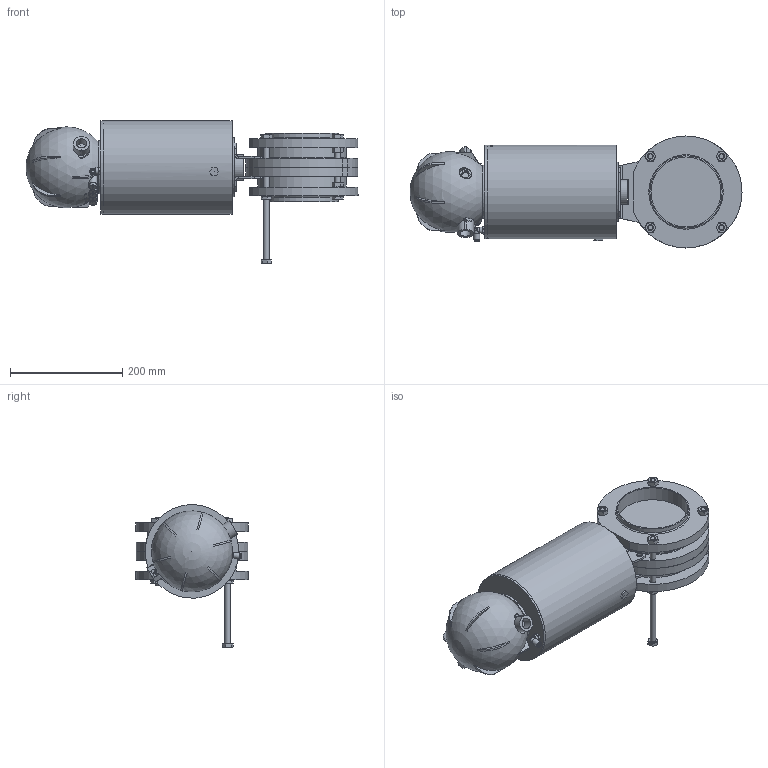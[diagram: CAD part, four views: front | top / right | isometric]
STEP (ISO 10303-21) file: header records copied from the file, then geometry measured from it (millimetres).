
FILE_DESCRIPTION(/* description */ ('ZVF V.FARF.DN125(129X2)WAF4 MACH156 SENC 316 EPDM'),/* implementation_level */ '2;1');
FILE_NAME(/* name */ 'C:\_DED_PWS\MENI-A\DB\B\EAA\BEAAC6125BEBK-00^SAGOMA.step',/* time_stamp */ '2025-06-06T15:21:15+02:00',/* author */ (''),/* organization */ (''),/* preprocessor_version */ 'ST-DEVELOPER v20',/* originating_system */ 'Autodesk Inventor 2022',/* authorisation */ '');
FILE_SCHEMA (('CONFIG_CONTROL_DESIGN'));
Length unit declared in the file: millimetre
Products named in the file (8): BEAAC6125BEBK; MEZZO-COR-DN125-WAFER-4; FLANGIA-DN129x2-WAFER-4; supporto-farf-DN125; 3DAAZVFAA053; 3DAAGIOTAE005; UNI 5738 - M10 x 1,25 x 110; UNI 5588 - M10
Assembly tree (21 placements, depth 2):
  BEAAC6125BEBK
    FLANGIA-DN129x2-WAFER-4  x2
    MEZZO-COR-DN125-WAFER-4  x2
    UNI 5738 - M10 x 1,25 x 110  x5
    UNI 5588 - M10  x8
    supporto-farf-DN125  x2
    3DAAZVFAA053
    3DAAGIOTAE005
Bounding box: 592.74 x 200 x 254.2 mm (x, y, z)
Volume: 6531498 mm3; surface area: 845061.4 mm2
Topology: 21 solids, 21 shells, 976 faces, 2357 edges, 1495 vertices
Faces by surface type: plane 563, cylinder 200, cone 173, bspline 20, sphere 13, torus 7
Full cylindrical faces by diameter (mm): 2 x1, 3.5 x1, 4 x1, 4.917 x2, 6 x2, 7 x1, 7.8 x1, 8 x4, 8.376 x8, 8.917 x4, 10 x6, 10.5 x20, 10.917 x1, 11 x1, 11.5 x1, 12.6 x1, 13 x3, 14 x3, 14.5 x2, 16.2 x5, 18 x1, 18.5 x2, 19 x1, 22 x1, 22.8 x1, 35 x1, 35.1 x1, 45 x1, 45.5 x1, 46 x1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
Entity records: 22126 total; most frequent: CARTESIAN_POINT 5347, DIRECTION 3585, ORIENTED_EDGE 3292, EDGE_CURVE 1646, AXIS2_PLACEMENT_3D 1410, VERTEX_POINT 1076, EDGE_LOOP 784, LINE 765
